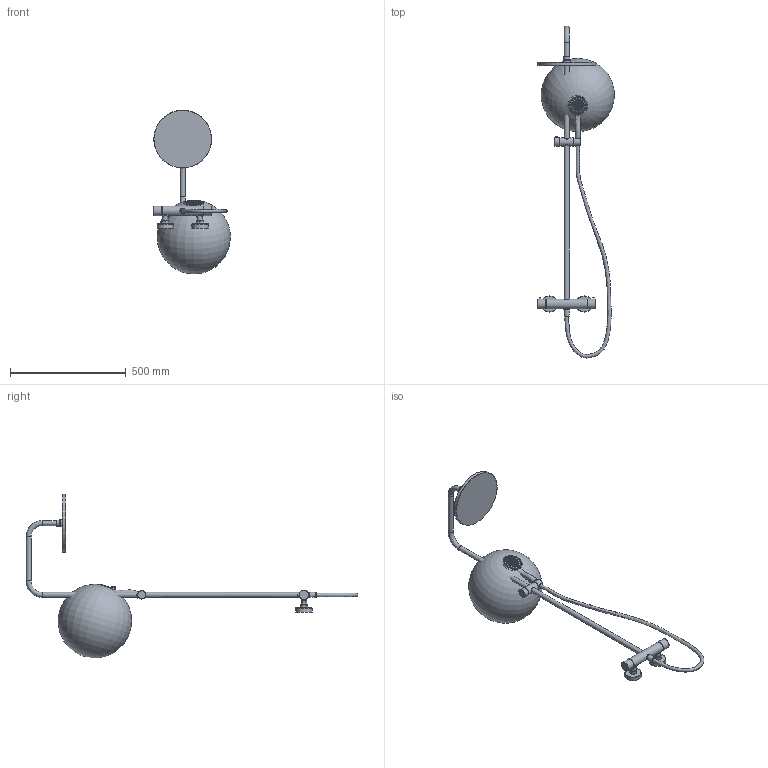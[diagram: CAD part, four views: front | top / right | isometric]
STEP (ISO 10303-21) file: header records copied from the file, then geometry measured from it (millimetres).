
FILE_DESCRIPTION(('STEP AP242'), '1');
FILE_NAME('78CR689THAE28P1', '', ('UNSPECIFIED'), ('UNSPECIFIED'), 'ASCON STEP Converter 1.6', 'ASCON Math Kernel', '');
FILE_SCHEMA(('AP242_MANAGED_MODEL_BASED_3D_ENGINEERING_MIM_LF { 1 0 10303 442 1 1 4 }'));
Length unit declared in the file: millimetre
Assembly tree (2 placements, depth 2):
  (unnamed)
    (unnamed)
    (unnamed)
Bounding box: 330.35 x 1433.32 x 707.01 mm (x, y, z)
Volume: 18790275.3 mm3; surface area: 718527.9 mm2
Topology: 9 solids, 9 shells, 446 faces, 1014 edges, 637 vertices
Faces by surface type: bspline 230, cylinder 115, torus 49, plane 46, cone 6
Full cylindrical faces by diameter (mm): 1.8 x16, 3.6 x31, 7 x3, 7.2 x8, 16 x1, 22 x4, 23 x2, 26 x1, 30 x1, 36 x3, 38.5 x1, 40 x1, 42 x3, 70 x2, 250 x1
Entity records: 46379 total; most frequent: CARTESIAN_POINT 34910, ORIENTED_EDGE 1722, DIRECTION 1051, EDGE_CURVE 861, EDGE_LOOP 642, VERTEX_POINT 625, AXIS2_PLACEMENT_3D 487, FACE_BOUND 467
